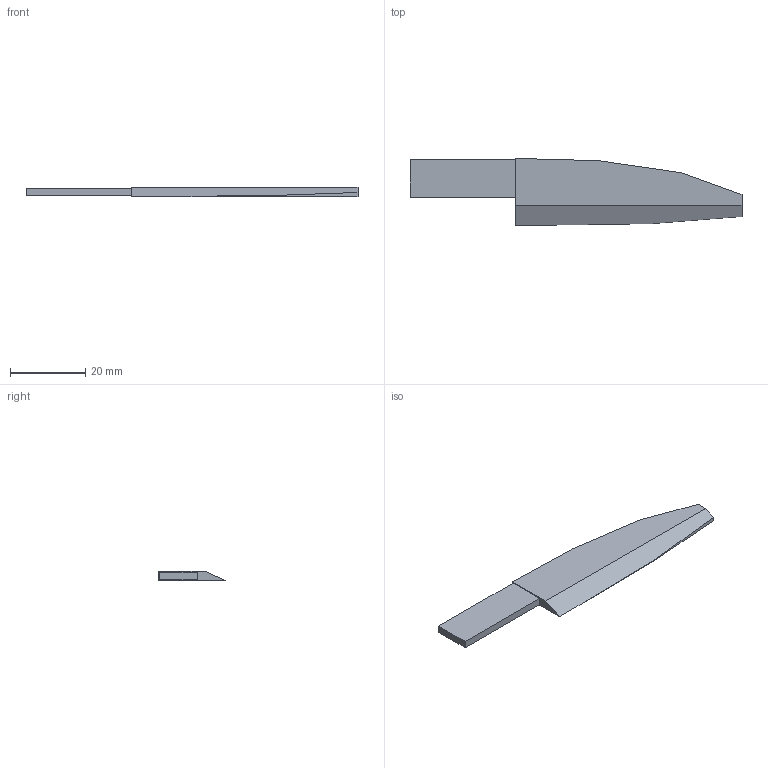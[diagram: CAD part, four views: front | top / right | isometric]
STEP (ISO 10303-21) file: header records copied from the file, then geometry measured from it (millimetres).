
FILE_DESCRIPTION(('Open CASCADE Model'),'2;1');
FILE_NAME('Open CASCADE Shape Model','2026-08-15T08:52:40',('Author'),( 'Open CASCADE'),'Open CASCADE STEP processor 7.9','Open CASCADE 7.9' ,'Unknown');
FILE_SCHEMA(('AUTOMOTIVE_DESIGN { 1 0 10303 214 1 1 1 1 }'));
Length unit declared in the file: millimetre
Products named in the file (1): Open CASCADE STEP translator 7.9 4
Bounding box: 88 x 17.8 x 2.4 mm (x, y, z)
Volume: 2332.3 mm3; surface area: 2637.2 mm2
Topology: 1 solids, 1 shells, 15 faces, 35 edges, 23 vertices
Faces by surface type: plane 15
Entity records: 878 total; most frequent: CARTESIAN_POINT 152, DIRECTION 129, LINE 97, VECTOR 97, ORIENTED_EDGE 70, PCURVE 70, DEFINITIONAL_REPRESENTATION 70, EDGE_CURVE 35
